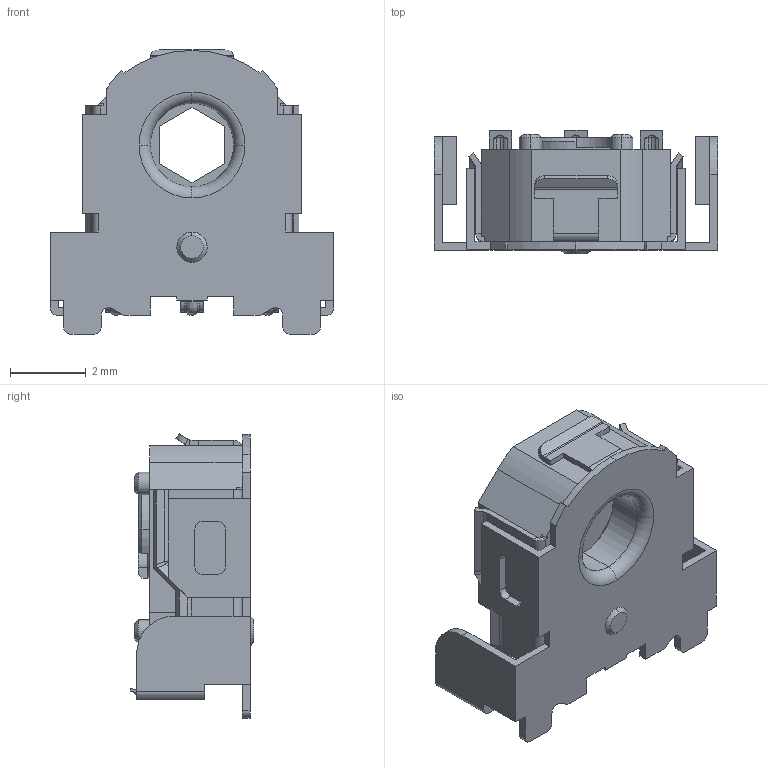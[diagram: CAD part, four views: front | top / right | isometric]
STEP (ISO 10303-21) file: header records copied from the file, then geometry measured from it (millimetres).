
FILE_DESCRIPTION(('STEP AP214'),'1');
FILE_NAME ('EC05E1220203.STEP', '2011-01-08T12:49:01', ( '' ), ( '' ), 'SwSTEP 2.0', 'SolidWorks 2007', '' );
FILE_SCHEMA(('automotive_design'));
Length unit declared in the file: inch
Products named in the file (1): EC05E1220203
Bounding box: 7.5 x 3.27 x 7.52 mm (x, y, z)
Volume: 53.1 mm3; surface area: 287.4 mm2
Topology: 1 solids, 1 shells, 499 faces, 1319 edges, 819 vertices
Faces by surface type: plane 236, cylinder 177, bspline 55, cone 19, revolution 8, torus 4
Entity records: 20372 total; most frequent: CARTESIAN_POINT 4125, ORIENTED_EDGE 2618, DIRECTION 2537, EDGE_CURVE 1309, AXIS2_PLACEMENT_3D 864, VERTEX_POINT 819, LINE 801, VECTOR 801
